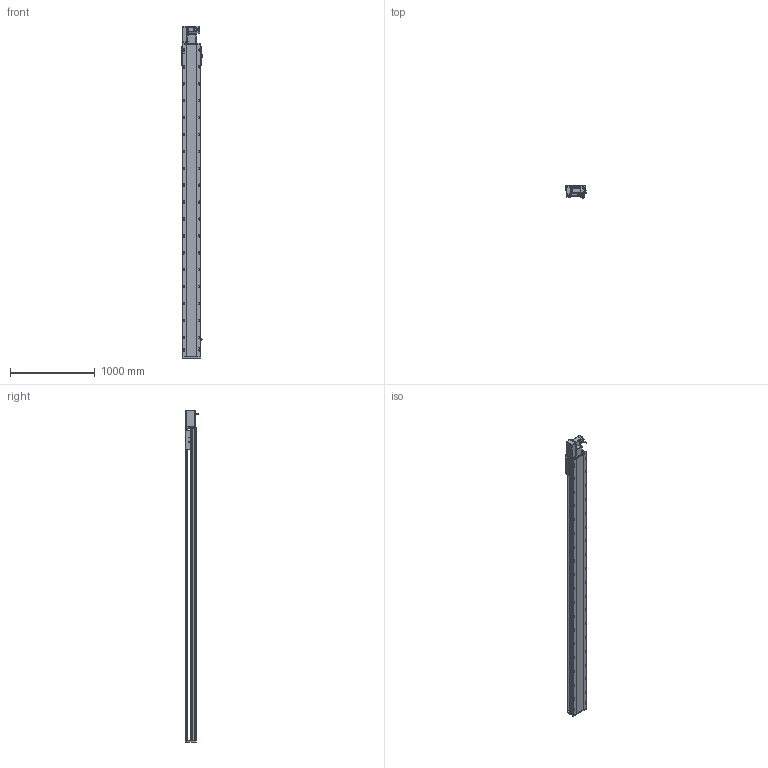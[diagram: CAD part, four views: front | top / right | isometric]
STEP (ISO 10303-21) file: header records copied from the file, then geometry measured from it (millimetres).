
FILE_DESCRIPTION (( 'STEP AP214' ), '1' );
FILE_NAME ('RTB22S-XX-3350-L-M75-C4.STEP', '2025-12-12T03:34:40', ( '' ), ( '' ), 'SwSTEP 2.0', 'SolidWorks 2018', '' );
FILE_SCHEMA (( 'AUTOMOTIVE_DESIGN' ));
Length unit declared in the file: millimetre
Products named in the file (14): RTB22S-L-011菁釱^RTB22S-XX-XX-L-M75-C4; OMRON EE-SX672 传感器^RTB22S-XX-XX-L-M75-C4; RTB22S-GY-005P^RTB22S-L-々湍釱蚾饜_RTB22S-XX-XX-L-M75-C4; 750W萇儂^RTB22S-XX-XX-L-M75-C4; RTB22S-L-004賑釱^RTB22S-XX-XX-L-M75-C4; RTB22S-GY-001耜裔^RTB22S-XX-XX-L-M75-C4; RTB22S-GY-007奻裔^RTB22S-XX-XX-L-M75-C4; RTH22-GY-013外置感应片^RTB22S-XX-XX-L-M75-C4; RTB22S-GY-018P^RTB22S-L-々湍釱蚾饜_RTB22S-XX-XX-L-M75-C4; RTB22S-GY-008-M75--萇儂啣^RTB22S-L-々湍釱蚾饜_RTB22S-XX-XX-L-M75-C4; RTB22S-XX-3350-L-M75-C4; RTB22S-GY-017P^RTB22S-L-々湍釱蚾饜_RTB22S-XX-XX-L-M75-C4; RTB22S-GY-014--々湍釱^RTB22S-L-々湍釱蚾饜_RTB22S-XX-XX-L-M75-C4; RTB22S-L-々湍釱蚾饜^RTB22S-XX-XX-L-M75-C4
Assembly tree (16 placements, depth 3):
  RTB22S-XX-3350-L-M75-C4
    RTB22S-L-011菁釱^RTB22S-XX-XX-L-M75-C4
    750W萇儂^RTB22S-XX-XX-L-M75-C4
    RTB22S-L-004賑釱^RTB22S-XX-XX-L-M75-C4
    OMRON EE-SX672 传感器^RTB22S-XX-XX-L-M75-C4  x3
    RTH22-GY-013外置感应片^RTB22S-XX-XX-L-M75-C4
    RTB22S-GY-007奻裔^RTB22S-XX-XX-L-M75-C4
    RTB22S-GY-001耜裔^RTB22S-XX-XX-L-M75-C4
    RTB22S-L-々湍釱蚾饜^RTB22S-XX-XX-L-M75-C4
      RTB22S-GY-014--々湍釱^RTB22S-L-々湍釱蚾饜_RTB22S-XX-XX-L-M75-C4
      RTB22S-GY-017P^RTB22S-L-々湍釱蚾饜_RTB22S-XX-XX-L-M75-C4  x2
      RTB22S-GY-005P^RTB22S-L-々湍釱蚾饜_RTB22S-XX-XX-L-M75-C4
      RTB22S-GY-008-M75--萇儂啣^RTB22S-L-々湍釱蚾饜_RTB22S-XX-XX-L-M75-C4
      RTB22S-GY-018P^RTB22S-L-々湍釱蚾饜_RTB22S-XX-XX-L-M75-C4
Bounding box: 238.5 x 162.7 x 3929 mm (x, y, z)
Volume: 48667607.7 mm3; surface area: 4953778.7 mm2
Topology: 15 solids, 15 shells, 2181 faces, 5936 edges, 3782 vertices
Faces by surface type: plane 937, cylinder 754, bspline 296, cone 182, sphere 8, torus 4
Entity records: 60006 total; most frequent: CARTESIAN_POINT 16800, ORIENTED_EDGE 8572, DIRECTION 8440, EDGE_CURVE 4286, AXIS2_PLACEMENT_3D 3050, VERTEX_POINT 2786, LINE 2340, VECTOR 2340
